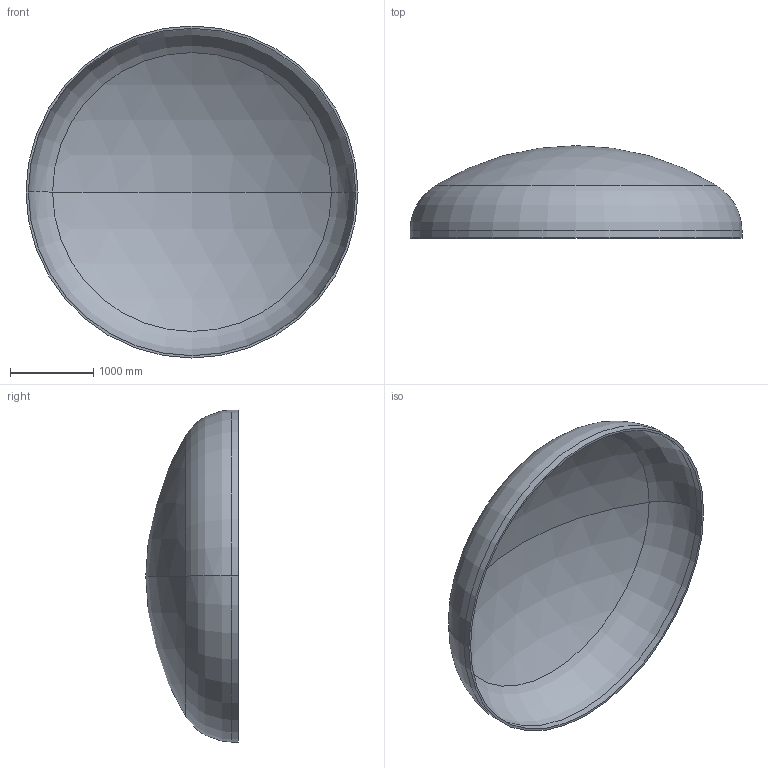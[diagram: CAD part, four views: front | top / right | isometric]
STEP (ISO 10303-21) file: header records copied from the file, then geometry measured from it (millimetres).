
FILE_DESCRIPTION (( 'STEP AP203' ), '1' );
FILE_NAME ('DIN 28013 Korbbogenform_-_Boden DIN 28013 - 4000 x 85 - I - s=28.step', '2016-07-01T22:13:38', ( '' ), ( '' ), 'SwSTEP 2.0', 'SolidWorks 2013', '' );
FILE_SCHEMA (( 'CONFIG_CONTROL_DESIGN' ));
Length unit declared in the file: millimetre
Products named in the file (1): DIN 28013 Korbbogenform_-_Boden DIN 28013 - 4000 x 85 - I - s=28
Bounding box: 4000 x 1112.82 x 4000 mm (x, y, z)
Volume: 512380899.5 mm3; surface area: 36949658.9 mm2
Topology: 1 solids, 1 shells, 13 faces, 24 edges, 14 vertices
Faces by surface type: torus 4, cylinder 4, sphere 4, plane 1
Entity records: 407 total; most frequent: DIRECTION 72, CARTESIAN_POINT 52, ORIENTED_EDGE 48, AXIS2_PLACEMENT_3D 34, EDGE_CURVE 24, CIRCLE 20, VERTEX_POINT 14, EDGE_LOOP 14
